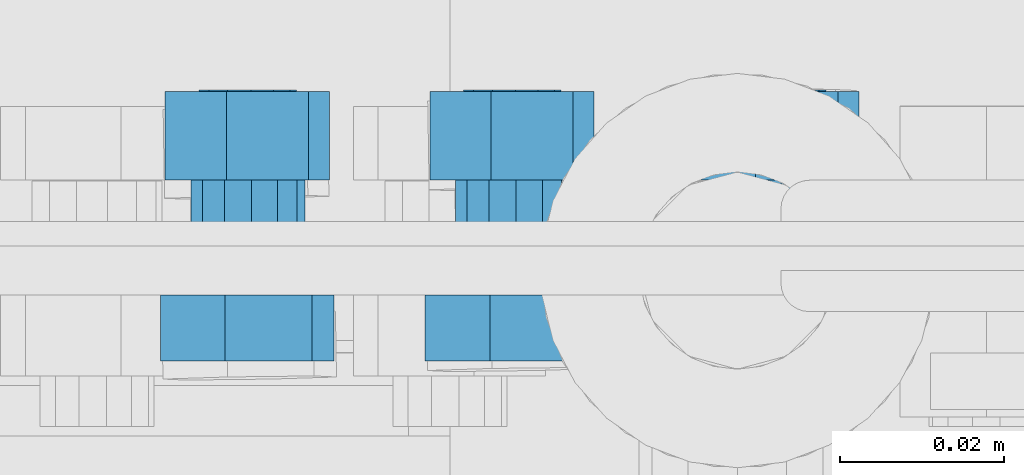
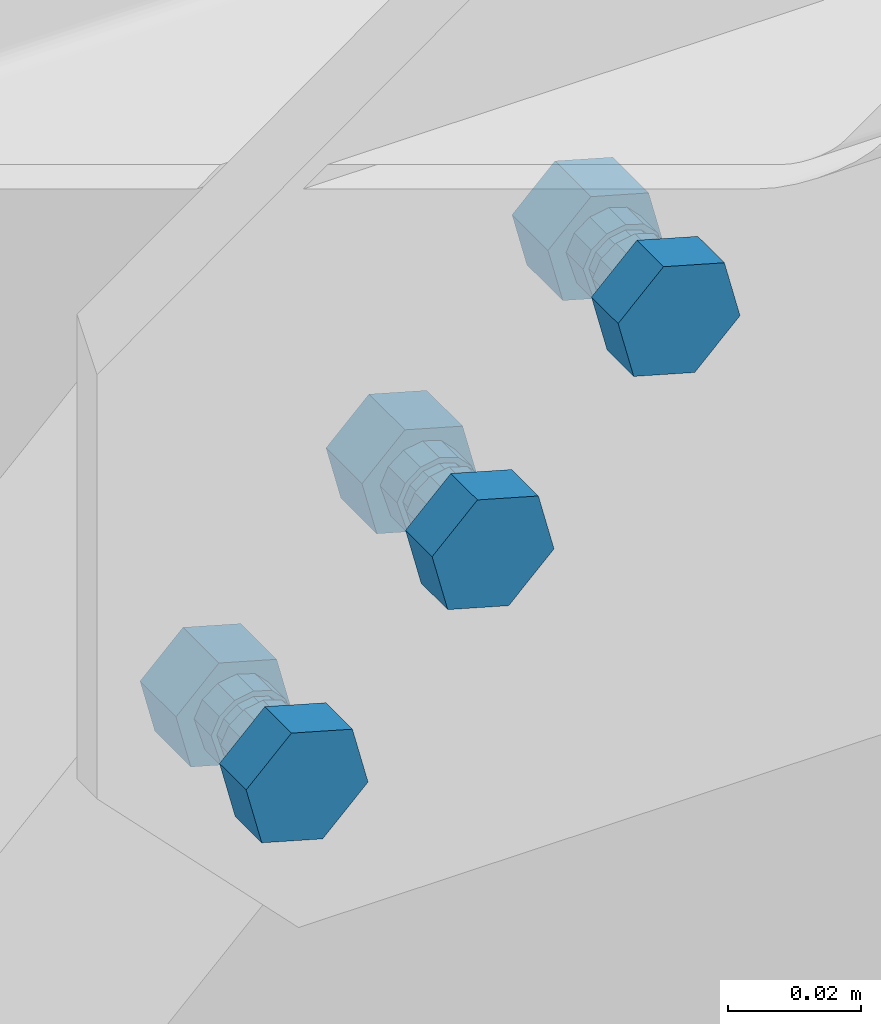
# One storey, part 10 of 18: 1 mechanical fastener.
"""IFC2X3 building model written with IfcOpenShell, lengths in millimetres."""

from ifc_helpers import new_model, si_unit, frame, origin_with_axes, place, context, subcontext, project, spatial, faceted_brep, source, transform, mapped, type_object, element, save


model = new_model("IFC2X3")

# Units and contexts
model_context = context("Model", 3, precision=1e-05, world=origin_with_axes())
body_context = subcontext(model_context, "Body", "Model", "MODEL_VIEW")
ifc_project = project(units=[si_unit("LENGTHUNIT", "METRE", prefix="MILLI"), si_unit("AREAUNIT", "SQUARE_METRE"), si_unit("VOLUMEUNIT", "CUBIC_METRE"), si_unit("MASSUNIT", "GRAM", prefix="KILO"), si_unit("TIMEUNIT", "SECOND"), si_unit("PLANEANGLEUNIT", "RADIAN"), si_unit("SOLIDANGLEUNIT", "STERADIAN"), si_unit("THERMODYNAMICTEMPERATUREUNIT", "DEGREE_CELSIUS"), si_unit("LUMINOUSINTENSITYUNIT", "LUMEN")], contexts=[model_context])

# Site, building, storey
site_placement = place(None, origin_with_axes())
site = spatial("IfcSite", under=ifc_project, at=site_placement, Name="Undefined", CompositionType="ELEMENT")
building_placement = place(site_placement, origin_with_axes())
building = spatial("IfcBuilding", under=site, at=building_placement, Name="Undefined", CompositionType="ELEMENT")
storey_placement = place(building_placement, origin_with_axes())
storey = spatial("IfcBuildingStorey", under=building, at=storey_placement, Name="Undefined", CompositionType="ELEMENT", Elevation=0.0)

# Mechanical fastener
mechanical_fastener_type = type_object("IfcMechanicalFastenerType", Name="Bolt assembly")
shared_shape_1 = source(origin_with_axes(), body_context, "Body", "Brep", [
    faceted_brep([(10.96965511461, -16.9994777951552, 0.0), (5.484827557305, -16.9994777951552, 9.50000000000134), (-5.484827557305, -16.9994777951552, 9.50000000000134), (-10.96965511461, -16.9994777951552, 0.0), (-5.484827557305, -16.9994777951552, -9.50000000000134), (5.484827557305, -16.9994777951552, -9.50000000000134), (5.484827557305, -8.99947779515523, -9.50000000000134), (-5.484827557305, -8.99947779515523, -9.50000000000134), (-10.96965511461, -8.99947779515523, 0.0), (-5.484827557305, -8.99947779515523, 9.50000000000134), (5.484827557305, -8.99947779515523, 9.50000000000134), (10.96965511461, -8.99947779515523, 0.0), (6.0, -8.99947779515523, 0.0), (5.31273615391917, -8.99947779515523, 2.78833903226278), (3.40838848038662, -8.99947779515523, 4.93790319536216), (0.723220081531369, -8.99947779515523, 5.95625324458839), (-2.12762932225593, -8.99947779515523, 5.61009745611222), (-4.49106448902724, -8.99947779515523, 3.97873594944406), (-5.82565090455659, -8.99947779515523, 1.43589398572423), (-5.82565090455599, -8.99947779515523, -1.43589398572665), (-4.49106448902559, -8.99947779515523, -3.97873594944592), (-2.12762932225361, -8.99947779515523, -5.6100974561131), (0.723220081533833, -8.99947779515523, -5.95625324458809), (3.40838848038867, -8.99947779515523, -4.93790319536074), (3.40838848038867, 16.0005222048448, -4.93790319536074), (0.723220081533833, 16.0005222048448, -5.95625324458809), (-2.12762932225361, 16.0005222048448, -5.6100974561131), (-4.49106448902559, 16.0005222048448, -3.97873594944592), (-5.82565090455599, 16.0005222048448, -1.43589398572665), (-5.82565090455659, 16.0005222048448, 1.43589398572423), (-4.49106448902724, 16.0005222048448, 3.97873594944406), (-2.12762932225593, 16.0005222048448, 5.61009745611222), (0.723220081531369, 16.0005222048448, 5.95625324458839), (3.40838848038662, 16.0005222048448, 4.93790319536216), (5.31273615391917, 16.0005222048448, 2.78833903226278), (6.0, 16.0005222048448, 0.0), (10.39230484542, 4.99999999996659, 0.0), (5.19615242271, 4.99999999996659, 9.00000000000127), (-5.19615242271, 4.99999999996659, 9.00000000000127), (-10.39230484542, 4.99999999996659, 0.0), (-5.19615242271, 4.99999999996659, -9.00000000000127), (5.19615242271, 4.99999999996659, -9.00000000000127), (5.19615242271, 15.8000001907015, -9.00000000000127), (-5.19615242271, 15.8000001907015, -9.00000000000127), (-10.39230484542, 15.8000001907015, 0.0), (-5.19615242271, 15.8000001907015, 9.00000000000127), (5.19615242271, 15.8000001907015, 9.00000000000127), (10.39230484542, 15.8000001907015, 0.0)], [[[0, 1, 2, 3, 4, 5]], [[6, 7, 8, 9, 10, 11]], [[0, 11, 10, 1]], [[1, 10, 9, 2]], [[2, 9, 8, 3]], [[3, 8, 7, 4]], [[4, 7, 6, 5]], [[5, 6, 11, 0]], [[12, 13, 14, 15, 16, 17, 18, 19, 20, 21, 22, 23]], [[24, 25, 26, 27, 28, 29, 30, 31, 32, 33, 34, 35]], [[12, 35, 34, 13]], [[13, 34, 33, 14]], [[14, 33, 32, 15]], [[15, 32, 31, 16]], [[16, 31, 30, 17]], [[17, 30, 29, 18]], [[18, 29, 28, 19]], [[19, 28, 27, 20]], [[20, 27, 26, 21]], [[21, 26, 25, 22]], [[22, 25, 24, 23]], [[23, 24, 35, 12]], [[36, 37, 38, 39, 40, 41]], [[42, 43, 44, 45, 46, 47]], [[36, 47, 46, 37]], [[37, 46, 45, 38]], [[38, 45, 44, 39]], [[39, 44, 43, 40]], [[40, 43, 42, 41]], [[41, 42, 47, 36]]]),
    faceted_brep([(7.0, -8.89947779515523, 0.0), (6.19819217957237, -8.89947779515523, 3.25306220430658), (3.97645322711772, -8.89947779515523, 5.76088706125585), (0.843756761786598, -8.89947779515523, 6.94896211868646), (-2.48223420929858, -8.89947779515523, 6.54511369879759), (-5.23957523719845, -8.89947779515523, 4.64185860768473), (-6.79659272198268, -8.89947779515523, 1.67520965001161), (-6.79659272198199, -8.89947779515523, -1.67520965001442), (-5.23957523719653, -8.89947779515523, -4.6418586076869), (-2.48223420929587, -8.89947779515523, -6.54511369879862), (0.843756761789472, -8.89947779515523, -6.94896211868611), (3.97645322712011, -8.89947779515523, -5.7608870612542), (3.97645322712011, -2.89947779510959, -5.7608870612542), (0.843756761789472, -2.89947779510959, -6.94896211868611), (-2.48223420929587, -2.89947779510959, -6.54511369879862), (-5.23957523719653, -2.89947779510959, -4.6418586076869), (-6.79659272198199, -2.89947779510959, -1.67520965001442), (-6.79659272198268, -2.89947779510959, 1.67520965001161), (-5.23957523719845, -2.89947779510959, 4.64185860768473), (-2.48223420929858, -2.89947779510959, 6.54511369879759), (0.843756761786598, -2.89947779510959, 6.94896211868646), (3.97645322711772, -2.89947779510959, 5.76088706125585), (6.19819217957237, -2.89947779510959, 3.25306220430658), (7.0, -2.89947779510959, 0.0), (7.0, -0.100000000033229, 0.0), (6.19819217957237, -0.100000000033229, 3.25306220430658), (3.97645322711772, -0.100000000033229, 5.76088706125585), (0.843756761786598, -0.100000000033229, 6.94896211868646), (-2.48223420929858, -0.100000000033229, 6.54511369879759), (-5.23957523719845, -0.100000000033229, 4.64185860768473), (-6.79659272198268, -0.100000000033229, 1.67520965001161), (-6.79659272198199, -0.100000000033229, -1.67520965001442), (-5.23957523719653, -0.100000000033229, -4.6418586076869), (-2.48223420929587, -0.100000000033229, -6.54511369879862), (0.843756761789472, -0.100000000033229, -6.94896211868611), (3.97645322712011, -0.100000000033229, -5.7608870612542), (3.97645322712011, 4.99999999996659, -5.7608870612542), (0.843756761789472, 4.99999999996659, -6.94896211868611), (-2.48223420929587, 4.99999999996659, -6.54511369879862), (-5.23957523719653, 4.99999999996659, -4.6418586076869), (-6.79659272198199, 4.99999999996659, -1.67520965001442), (-6.79659272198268, 4.99999999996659, 1.67520965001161), (-5.23957523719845, 4.99999999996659, 4.64185860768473), (-2.48223420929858, 4.99999999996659, 6.54511369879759), (0.843756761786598, 4.99999999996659, 6.94896211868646), (3.97645322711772, 4.99999999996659, 5.76088706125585), (6.19819217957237, 4.99999999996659, 3.25306220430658), (7.0, 4.99999999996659, 0.0)], [[[0, 1, 2, 3, 4, 5, 6, 7, 8, 9, 10, 11]], [[12, 13, 14, 15, 16, 17, 18, 19, 20, 21, 22, 23]], [[0, 23, 22, 1]], [[1, 22, 21, 2]], [[2, 21, 20, 3]], [[3, 20, 19, 4]], [[4, 19, 18, 5]], [[5, 18, 17, 6]], [[6, 17, 16, 7]], [[7, 16, 15, 8]], [[8, 15, 14, 9]], [[9, 14, 13, 10]], [[10, 13, 12, 11]], [[11, 12, 23, 0]], [[24, 25, 26, 27, 28, 29, 30, 31, 32, 33, 34, 35]], [[36, 37, 38, 39, 40, 41, 42, 43, 44, 45, 46, 47]], [[24, 47, 46, 25]], [[25, 46, 45, 26]], [[26, 45, 44, 27]], [[27, 44, 43, 28]], [[28, 43, 42, 29]], [[29, 42, 41, 30]], [[30, 41, 40, 31]], [[31, 40, 39, 32]], [[32, 39, 38, 33]], [[33, 38, 37, 34]], [[34, 37, 36, 35]], [[35, 36, 47, 24]]]),
])
shared_shape_2 = source(origin_with_axes(), body_context, "Body", "Brep", [
    faceted_brep([(10.96965511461, -16.9994777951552, 0.0), (5.484827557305, -16.9994777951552, 9.50000000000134), (-5.484827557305, -16.9994777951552, 9.50000000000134), (-10.96965511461, -16.9994777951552, 0.0), (-5.484827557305, -16.9994777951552, -9.50000000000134), (5.484827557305, -16.9994777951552, -9.50000000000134), (5.484827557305, -8.99947779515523, -9.50000000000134), (-5.484827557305, -8.99947779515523, -9.50000000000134), (-10.96965511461, -8.99947779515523, 0.0), (-5.484827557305, -8.99947779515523, 9.50000000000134), (5.484827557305, -8.99947779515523, 9.50000000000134), (10.96965511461, -8.99947779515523, 0.0), (6.0, -8.99947779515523, 0.0), (5.31273615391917, -8.99947779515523, 2.78833903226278), (3.40838848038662, -8.99947779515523, 4.93790319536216), (0.723220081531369, -8.99947779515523, 5.95625324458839), (-2.12762932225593, -8.99947779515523, 5.61009745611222), (-4.49106448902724, -8.99947779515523, 3.97873594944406), (-5.82565090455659, -8.99947779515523, 1.43589398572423), (-5.82565090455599, -8.99947779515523, -1.43589398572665), (-4.49106448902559, -8.99947779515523, -3.97873594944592), (-2.12762932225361, -8.99947779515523, -5.6100974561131), (0.723220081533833, -8.99947779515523, -5.95625324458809), (3.40838848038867, -8.99947779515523, -4.93790319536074), (3.40838848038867, 16.0005222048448, -4.93790319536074), (0.723220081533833, 16.0005222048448, -5.95625324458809), (-2.12762932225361, 16.0005222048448, -5.6100974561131), (-4.49106448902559, 16.0005222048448, -3.97873594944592), (-5.82565090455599, 16.0005222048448, -1.43589398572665), (-5.82565090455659, 16.0005222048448, 1.43589398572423), (-4.49106448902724, 16.0005222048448, 3.97873594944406), (-2.12762932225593, 16.0005222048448, 5.61009745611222), (0.723220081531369, 16.0005222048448, 5.95625324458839), (3.40838848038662, 16.0005222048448, 4.93790319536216), (5.31273615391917, 16.0005222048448, 2.78833903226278), (6.0, 16.0005222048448, 0.0), (10.39230484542, 4.99999999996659, 0.0), (5.19615242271, 4.99999999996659, 9.00000000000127), (-5.19615242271, 4.99999999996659, 9.00000000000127), (-10.39230484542, 4.99999999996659, 0.0), (-5.19615242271, 4.99999999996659, -9.00000000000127), (5.19615242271, 4.99999999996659, -9.00000000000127), (5.19615242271, 15.8000001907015, -9.00000000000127), (-5.19615242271, 15.8000001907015, -9.00000000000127), (-10.39230484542, 15.8000001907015, 0.0), (-5.19615242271, 15.8000001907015, 9.00000000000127), (5.19615242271, 15.8000001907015, 9.00000000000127), (10.39230484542, 15.8000001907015, 0.0)], [[[0, 1, 2, 3, 4, 5]], [[6, 7, 8, 9, 10, 11]], [[0, 11, 10, 1]], [[1, 10, 9, 2]], [[2, 9, 8, 3]], [[3, 8, 7, 4]], [[4, 7, 6, 5]], [[5, 6, 11, 0]], [[12, 13, 14, 15, 16, 17, 18, 19, 20, 21, 22, 23]], [[24, 25, 26, 27, 28, 29, 30, 31, 32, 33, 34, 35]], [[12, 35, 34, 13]], [[13, 34, 33, 14]], [[14, 33, 32, 15]], [[15, 32, 31, 16]], [[16, 31, 30, 17]], [[17, 30, 29, 18]], [[18, 29, 28, 19]], [[19, 28, 27, 20]], [[20, 27, 26, 21]], [[21, 26, 25, 22]], [[22, 25, 24, 23]], [[23, 24, 35, 12]], [[36, 37, 38, 39, 40, 41]], [[42, 43, 44, 45, 46, 47]], [[36, 47, 46, 37]], [[37, 46, 45, 38]], [[38, 45, 44, 39]], [[39, 44, 43, 40]], [[40, 43, 42, 41]], [[41, 42, 47, 36]]]),
    faceted_brep([(7.0, -8.89947779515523, 0.0), (6.19819217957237, -8.89947779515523, 3.25306220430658), (3.97645322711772, -8.89947779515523, 5.76088706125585), (0.843756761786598, -8.89947779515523, 6.94896211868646), (-2.48223420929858, -8.89947779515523, 6.54511369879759), (-5.23957523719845, -8.89947779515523, 4.64185860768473), (-6.79659272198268, -8.89947779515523, 1.67520965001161), (-6.79659272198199, -8.89947779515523, -1.67520965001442), (-5.23957523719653, -8.89947779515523, -4.6418586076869), (-2.48223420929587, -8.89947779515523, -6.54511369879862), (0.843756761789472, -8.89947779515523, -6.94896211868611), (3.97645322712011, -8.89947779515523, -5.7608870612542), (3.97645322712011, -2.89947779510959, -5.7608870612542), (0.843756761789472, -2.89947779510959, -6.94896211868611), (-2.48223420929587, -2.89947779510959, -6.54511369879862), (-5.23957523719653, -2.89947779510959, -4.6418586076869), (-6.79659272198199, -2.89947779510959, -1.67520965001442), (-6.79659272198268, -2.89947779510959, 1.67520965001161), (-5.23957523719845, -2.89947779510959, 4.64185860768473), (-2.48223420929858, -2.89947779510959, 6.54511369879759), (0.843756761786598, -2.89947779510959, 6.94896211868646), (3.97645322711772, -2.89947779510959, 5.76088706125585), (6.19819217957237, -2.89947779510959, 3.25306220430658), (7.0, -2.89947779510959, 0.0), (7.0, -0.100000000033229, 0.0), (6.19819217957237, -0.100000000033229, 3.25306220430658), (3.97645322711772, -0.100000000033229, 5.76088706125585), (0.843756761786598, -0.100000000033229, 6.94896211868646), (-2.48223420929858, -0.100000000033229, 6.54511369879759), (-5.23957523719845, -0.100000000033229, 4.64185860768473), (-6.79659272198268, -0.100000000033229, 1.67520965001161), (-6.79659272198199, -0.100000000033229, -1.67520965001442), (-5.23957523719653, -0.100000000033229, -4.6418586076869), (-2.48223420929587, -0.100000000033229, -6.54511369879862), (0.843756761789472, -0.100000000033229, -6.94896211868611), (3.97645322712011, -0.100000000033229, -5.7608870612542), (3.97645322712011, 4.99999999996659, -5.7608870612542), (0.843756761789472, 4.99999999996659, -6.94896211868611), (-2.48223420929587, 4.99999999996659, -6.54511369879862), (-5.23957523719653, 4.99999999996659, -4.6418586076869), (-6.79659272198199, 4.99999999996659, -1.67520965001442), (-6.79659272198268, 4.99999999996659, 1.67520965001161), (-5.23957523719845, 4.99999999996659, 4.64185860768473), (-2.48223420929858, 4.99999999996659, 6.54511369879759), (0.843756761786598, 4.99999999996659, 6.94896211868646), (3.97645322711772, 4.99999999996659, 5.76088706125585), (6.19819217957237, 4.99999999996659, 3.25306220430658), (7.0, 4.99999999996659, 0.0)], [[[0, 1, 2, 3, 4, 5, 6, 7, 8, 9, 10, 11]], [[12, 13, 14, 15, 16, 17, 18, 19, 20, 21, 22, 23]], [[0, 23, 22, 1]], [[1, 22, 21, 2]], [[2, 21, 20, 3]], [[3, 20, 19, 4]], [[4, 19, 18, 5]], [[5, 18, 17, 6]], [[6, 17, 16, 7]], [[7, 16, 15, 8]], [[8, 15, 14, 9]], [[9, 14, 13, 10]], [[10, 13, 12, 11]], [[11, 12, 23, 0]], [[24, 25, 26, 27, 28, 29, 30, 31, 32, 33, 34, 35]], [[36, 37, 38, 39, 40, 41, 42, 43, 44, 45, 46, 47]], [[24, 47, 46, 25]], [[25, 46, 45, 26]], [[26, 45, 44, 27]], [[27, 44, 43, 28]], [[28, 43, 42, 29]], [[29, 42, 41, 30]], [[30, 41, 40, 31]], [[31, 40, 39, 32]], [[32, 39, 38, 33]], [[33, 38, 37, 34]], [[34, 37, 36, 35]], [[35, 36, 47, 24]]]),
])
shared_shape_3 = source(origin_with_axes(), body_context, "Body", "Brep", [
    faceted_brep([(10.96965511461, -16.9994777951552, 0.0), (5.484827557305, -16.9994777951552, 9.50000000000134), (-5.484827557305, -16.9994777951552, 9.50000000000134), (-10.96965511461, -16.9994777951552, 0.0), (-5.484827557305, -16.9994777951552, -9.50000000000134), (5.484827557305, -16.9994777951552, -9.50000000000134), (5.484827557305, -8.99947779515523, -9.50000000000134), (-5.484827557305, -8.99947779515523, -9.50000000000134), (-10.96965511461, -8.99947779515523, 0.0), (-5.484827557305, -8.99947779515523, 9.50000000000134), (5.484827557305, -8.99947779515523, 9.50000000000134), (10.96965511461, -8.99947779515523, 0.0), (6.0, -8.99947779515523, 0.0), (5.31273615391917, -8.99947779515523, 2.78833903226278), (3.40838848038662, -8.99947779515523, 4.93790319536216), (0.723220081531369, -8.99947779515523, 5.95625324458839), (-2.12762932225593, -8.99947779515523, 5.61009745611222), (-4.49106448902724, -8.99947779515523, 3.97873594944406), (-5.82565090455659, -8.99947779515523, 1.43589398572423), (-5.82565090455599, -8.99947779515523, -1.43589398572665), (-4.49106448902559, -8.99947779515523, -3.97873594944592), (-2.12762932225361, -8.99947779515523, -5.6100974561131), (0.723220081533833, -8.99947779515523, -5.95625324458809), (3.40838848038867, -8.99947779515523, -4.93790319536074), (3.40838848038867, 16.0005222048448, -4.93790319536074), (0.723220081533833, 16.0005222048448, -5.95625324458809), (-2.12762932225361, 16.0005222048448, -5.6100974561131), (-4.49106448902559, 16.0005222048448, -3.97873594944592), (-5.82565090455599, 16.0005222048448, -1.43589398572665), (-5.82565090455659, 16.0005222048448, 1.43589398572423), (-4.49106448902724, 16.0005222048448, 3.97873594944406), (-2.12762932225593, 16.0005222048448, 5.61009745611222), (0.723220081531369, 16.0005222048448, 5.95625324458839), (3.40838848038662, 16.0005222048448, 4.93790319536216), (5.31273615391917, 16.0005222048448, 2.78833903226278), (6.0, 16.0005222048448, 0.0), (10.39230484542, 4.99999999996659, 0.0), (5.19615242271, 4.99999999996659, 9.00000000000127), (-5.19615242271, 4.99999999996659, 9.00000000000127), (-10.39230484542, 4.99999999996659, 0.0), (-5.19615242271, 4.99999999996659, -9.00000000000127), (5.19615242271, 4.99999999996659, -9.00000000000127), (5.19615242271, 15.8000001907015, -9.00000000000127), (-5.19615242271, 15.8000001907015, -9.00000000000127), (-10.39230484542, 15.8000001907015, 0.0), (-5.19615242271, 15.8000001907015, 9.00000000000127), (5.19615242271, 15.8000001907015, 9.00000000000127), (10.39230484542, 15.8000001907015, 0.0)], [[[0, 1, 2, 3, 4, 5]], [[6, 7, 8, 9, 10, 11]], [[0, 11, 10, 1]], [[1, 10, 9, 2]], [[2, 9, 8, 3]], [[3, 8, 7, 4]], [[4, 7, 6, 5]], [[5, 6, 11, 0]], [[12, 13, 14, 15, 16, 17, 18, 19, 20, 21, 22, 23]], [[24, 25, 26, 27, 28, 29, 30, 31, 32, 33, 34, 35]], [[12, 35, 34, 13]], [[13, 34, 33, 14]], [[14, 33, 32, 15]], [[15, 32, 31, 16]], [[16, 31, 30, 17]], [[17, 30, 29, 18]], [[18, 29, 28, 19]], [[19, 28, 27, 20]], [[20, 27, 26, 21]], [[21, 26, 25, 22]], [[22, 25, 24, 23]], [[23, 24, 35, 12]], [[36, 37, 38, 39, 40, 41]], [[42, 43, 44, 45, 46, 47]], [[36, 47, 46, 37]], [[37, 46, 45, 38]], [[38, 45, 44, 39]], [[39, 44, 43, 40]], [[40, 43, 42, 41]], [[41, 42, 47, 36]]]),
    faceted_brep([(7.0, -8.89947779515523, 0.0), (6.19819217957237, -8.89947779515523, 3.25306220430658), (3.97645322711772, -8.89947779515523, 5.76088706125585), (0.843756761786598, -8.89947779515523, 6.94896211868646), (-2.48223420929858, -8.89947779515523, 6.54511369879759), (-5.23957523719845, -8.89947779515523, 4.64185860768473), (-6.79659272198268, -8.89947779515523, 1.67520965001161), (-6.79659272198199, -8.89947779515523, -1.67520965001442), (-5.23957523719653, -8.89947779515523, -4.6418586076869), (-2.48223420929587, -8.89947779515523, -6.54511369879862), (0.843756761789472, -8.89947779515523, -6.94896211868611), (3.97645322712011, -8.89947779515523, -5.7608870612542), (3.97645322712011, -2.89947779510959, -5.7608870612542), (0.843756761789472, -2.89947779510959, -6.94896211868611), (-2.48223420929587, -2.89947779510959, -6.54511369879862), (-5.23957523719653, -2.89947779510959, -4.6418586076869), (-6.79659272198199, -2.89947779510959, -1.67520965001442), (-6.79659272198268, -2.89947779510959, 1.67520965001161), (-5.23957523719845, -2.89947779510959, 4.64185860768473), (-2.48223420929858, -2.89947779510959, 6.54511369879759), (0.843756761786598, -2.89947779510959, 6.94896211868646), (3.97645322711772, -2.89947779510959, 5.76088706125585), (6.19819217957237, -2.89947779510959, 3.25306220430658), (7.0, -2.89947779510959, 0.0), (7.0, -0.100000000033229, 0.0), (6.19819217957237, -0.100000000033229, 3.25306220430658), (3.97645322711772, -0.100000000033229, 5.76088706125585), (0.843756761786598, -0.100000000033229, 6.94896211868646), (-2.48223420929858, -0.100000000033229, 6.54511369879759), (-5.23957523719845, -0.100000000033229, 4.64185860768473), (-6.79659272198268, -0.100000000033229, 1.67520965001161), (-6.79659272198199, -0.100000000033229, -1.67520965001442), (-5.23957523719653, -0.100000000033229, -4.6418586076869), (-2.48223420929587, -0.100000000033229, -6.54511369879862), (0.843756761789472, -0.100000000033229, -6.94896211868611), (3.97645322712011, -0.100000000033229, -5.7608870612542), (3.97645322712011, 4.99999999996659, -5.7608870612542), (0.843756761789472, 4.99999999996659, -6.94896211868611), (-2.48223420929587, 4.99999999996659, -6.54511369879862), (-5.23957523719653, 4.99999999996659, -4.6418586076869), (-6.79659272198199, 4.99999999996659, -1.67520965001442), (-6.79659272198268, 4.99999999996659, 1.67520965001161), (-5.23957523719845, 4.99999999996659, 4.64185860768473), (-2.48223420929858, 4.99999999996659, 6.54511369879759), (0.843756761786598, 4.99999999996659, 6.94896211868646), (3.97645322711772, 4.99999999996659, 5.76088706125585), (6.19819217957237, 4.99999999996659, 3.25306220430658), (7.0, 4.99999999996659, 0.0)], [[[0, 1, 2, 3, 4, 5, 6, 7, 8, 9, 10, 11]], [[12, 13, 14, 15, 16, 17, 18, 19, 20, 21, 22, 23]], [[0, 23, 22, 1]], [[1, 22, 21, 2]], [[2, 21, 20, 3]], [[3, 20, 19, 4]], [[4, 19, 18, 5]], [[5, 18, 17, 6]], [[6, 17, 16, 7]], [[7, 16, 15, 8]], [[8, 15, 14, 9]], [[9, 14, 13, 10]], [[10, 13, 12, 11]], [[11, 12, 23, 0]], [[24, 25, 26, 27, 28, 29, 30, 31, 32, 33, 34, 35]], [[36, 37, 38, 39, 40, 41, 42, 43, 44, 45, 46, 47]], [[24, 47, 46, 25]], [[25, 46, 45, 26]], [[26, 45, 44, 27]], [[27, 44, 43, 28]], [[28, 43, 42, 29]], [[29, 42, 41, 30]], [[30, 41, 40, 31]], [[31, 40, 39, 32]], [[32, 39, 38, 33]], [[33, 38, 37, 34]], [[34, 37, 36, 35]], [[35, 36, 47, 24]]]),
])
mechanical_fastener_placement = place(storey_placement, frame((-55.2166161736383, -68.9999991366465, 5327.13813896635), z_axis=(0.698266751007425, -5.15925118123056e-13, -0.715837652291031), x_axis=(-0.715837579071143, -2.17631935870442e-13, -0.69826682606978)))
element("IfcMechanicalFastener", 1, at=mechanical_fastener_placement, inside=storey, type_object=mechanical_fastener_type, Name="Bolt assembly", NominalDiameter=12.0, NominalLength=30.0, context=body_context, shape_type="MappedRepresentation", body=[
    mapped(shared_shape_1, transform((0.0, 0.0, 0.0))),
    mapped(shared_shape_2, transform((45.0, 0.0, 0.0))),
    mapped(shared_shape_3, transform((90.0, 0.0, 0.0))),
])

save(model, "model.ifc")
